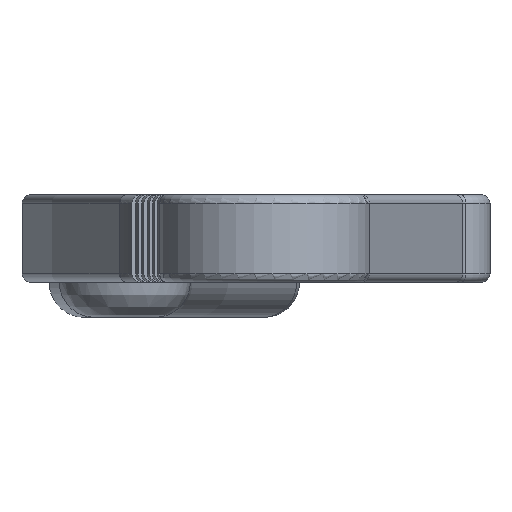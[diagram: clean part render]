
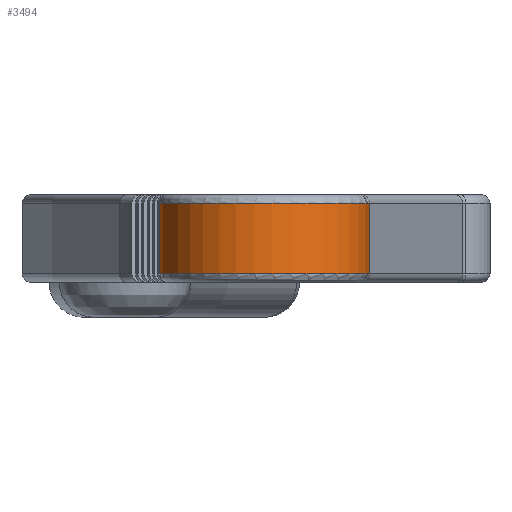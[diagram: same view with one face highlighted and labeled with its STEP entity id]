
A CAD part, left-side view. The second image highlights one B-rep face of the part: STEP entity #3494.
In plain terms, the highlighted cylindrical face has radius 6 mm (diameter 12 mm), a partial arc.
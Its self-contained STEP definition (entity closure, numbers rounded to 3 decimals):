
#313=CIRCLE('',#3892,6.);
#359=CIRCLE('',#3970,6.);
#440=CYLINDRICAL_SURFACE('',#3980,6.);
#651=FACE_OUTER_BOUND('',#878,.T.);
#878=EDGE_LOOP('',(#2981,#2982,#2983,#2984));
#1017=LINE('',#6970,#1150);
#1018=LINE('',#6972,#1151);
#1150=VECTOR('',#5044,10.);
#1151=VECTOR('',#5047,10.);
#1502=VERTEX_POINT('',#6805);
#1503=VERTEX_POINT('',#6809);
#1525=VERTEX_POINT('',#6919);
#1529=VERTEX_POINT('',#6953);
#1949=EDGE_CURVE('',#1503,#1502,#313,.T.);
#2012=EDGE_CURVE('',#1529,#1525,#359,.T.);
#2017=EDGE_CURVE('',#1503,#1525,#1017,.T.);
#2018=EDGE_CURVE('',#1502,#1529,#1018,.T.);
#2981=ORIENTED_EDGE('',*,*,#1949,.T.);
#2982=ORIENTED_EDGE('',*,*,#2018,.T.);
#2983=ORIENTED_EDGE('',*,*,#2012,.T.);
#2984=ORIENTED_EDGE('',*,*,#2017,.F.);
#3494=ADVANCED_FACE('',(#651),#440,.T.);
#3892=AXIS2_PLACEMENT_3D('',#6810,#4850,#4851);
#3970=AXIS2_PLACEMENT_3D('',#6957,#5021,#5022);
#3980=AXIS2_PLACEMENT_3D('',#6971,#5045,#5046);
#4850=DIRECTION('center_axis',(0.,0.,-1.));
#4851=DIRECTION('ref_axis',(-0.945,-0.327,0.));
#5021=DIRECTION('center_axis',(0.,0.,1.));
#5022=DIRECTION('ref_axis',(-0.945,-0.327,0.));
#5044=DIRECTION('',(0.,0.,-1.));
#5045=DIRECTION('center_axis',(0.,0.,1.));
#5046=DIRECTION('ref_axis',(-0.945,-0.327,0.));
#5047=DIRECTION('',(0.,0.,-1.));
#6805=CARTESIAN_POINT('',(130.484,-29.705,-0.5));
#6809=CARTESIAN_POINT('',(133.326,-37.926,-0.5));
#6810=CARTESIAN_POINT('Origin',(127.998,-35.166,-0.5));
#6919=CARTESIAN_POINT('',(133.326,-37.926,-4.5));
#6953=CARTESIAN_POINT('',(130.484,-29.705,-4.5));
#6957=CARTESIAN_POINT('Origin',(127.998,-35.166,-4.5));
#6970=CARTESIAN_POINT('',(133.326,-37.926,0.));
#6971=CARTESIAN_POINT('Origin',(127.998,-35.166,0.));
#6972=CARTESIAN_POINT('',(130.484,-29.705,0.));
